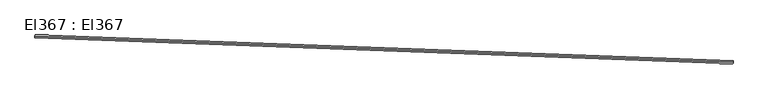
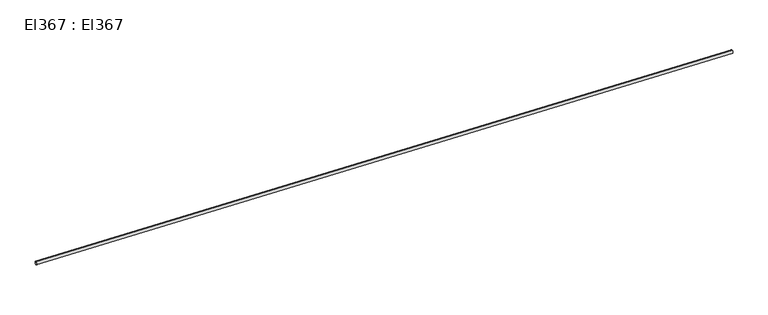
"""IFC4 building model written with IfcOpenShell, lengths in millimetres: cable carrier segment geometry, El367 : El367."""

from ifc_helpers import new_model, si_unit, point, frame, frame_2d, origin, place, context, project, spatial, circle_curve, trimmed, segment, composite_curve, outline, extrude, source, transform, mapped, element, save


def el367_el367_b81dd1c6(model_context):
    return source(origin(), model_context, "Body", "SweptSolid", [
        extrude(outline(composite_curve([segment(trimmed(circle_curve(frame_2d((0.0, -9.5)), 9.5), [point((0.0, -19.0))], [point((0.0, 0.0))], False, "CARTESIAN"), True, "CONTINUOUS"), segment(trimmed(circle_curve(frame_2d((0.0, -9.5)), 9.5), [point((0.0, 0.0))], [point((0.0, -19.0))], False, "CARTESIAN"), True, "CONTINUOUS")], self_intersect=False)), frame((15439.4969911, 7950.6457716, 9.5), z_axis=(-0.9993226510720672, 0.03679998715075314, 0.0), x_axis=(-0.03679998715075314, -0.9993226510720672, 0.0)), (0.0, 0.0, 1.0), 4330.13),
    ])


if __name__ == "__main__":
    model = new_model("IFC4")
    model_context = context("Model", 3, world=origin())
    ifc_project = project(units=[si_unit("LENGTHUNIT", "METRE", prefix="MILLI")], contexts=[model_context])
    site = spatial("IfcSite", under=ifc_project)
    building = spatial("IfcBuilding", under=site)
    placement = place(None, origin())
    el367_el367_shape = el367_el367_b81dd1c6(model_context)
    element("IfcCableCarrierSegment", 1, ObjectType="El367 : El367", at=placement, inside=building, context=model_context, shape_type="MappedRepresentation", body=[
        mapped(el367_el367_shape, transform((0.0, 0.0, 0.0), x_axis=(1.0, 0.0, 0.0), y_axis=(0.0, 1.0, 0.0), z_axis=(0.0, 0.0, 1.0))),
    ])
    save(model, "model.ifc")
